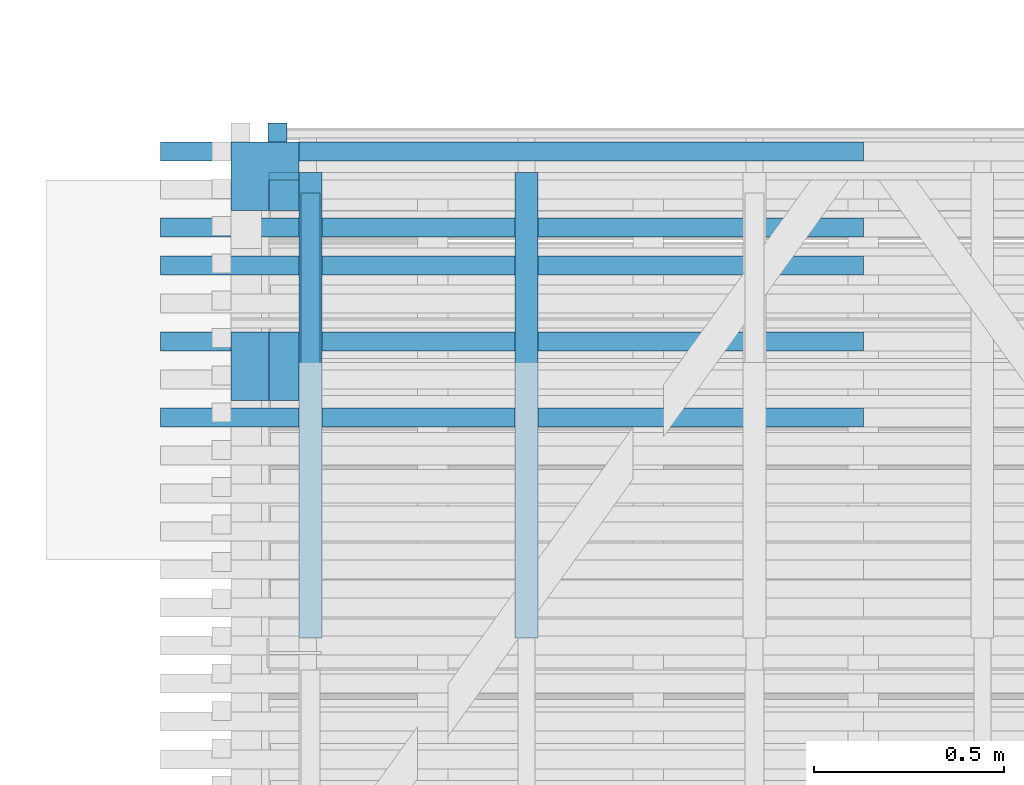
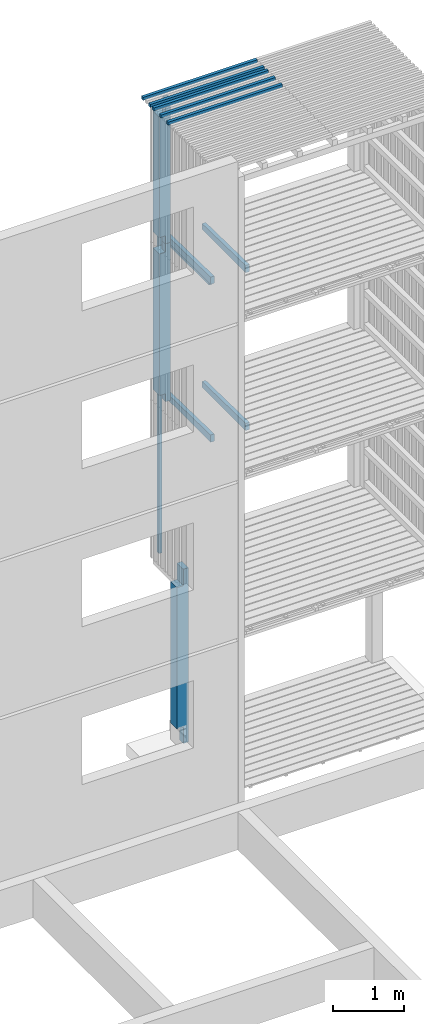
# One storey, part 118 of 182: 15 beams.
"""IFC2X3 building model written with IfcOpenShell, lengths in metres."""

from ifc_helpers import new_model, si_unit, frame, origin, place, context, project, spatial, faceted_brep, element, save


model = new_model("IFC2X3")

# Units and contexts
model_context = context("Model", 3, precision=1e-06, world=origin())
ifc_project = project(units=[si_unit("LENGTHUNIT", "METRE"), si_unit("PLANEANGLEUNIT", "RADIAN")], contexts=[model_context])

# Site, building, storey
site = spatial("IfcSite", under=ifc_project, CompositionType="ELEMENT")
building = spatial("IfcBuilding", under=site, CompositionType="ELEMENT")
storey = spatial("IfcBuildingStorey", under=building, Name="vs", CompositionType="ELEMENT", Elevation=-0.85)

# Beams
placement = place(None, origin())
beam_1_placement = place(placement, frame((53.80299999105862, 5.965077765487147, 8.00424999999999), z_axis=(0.0, 0.0, 1.0), x_axis=(0.0, 1.0, 0.0)))
element("IfcBeam", 1, at=beam_1_placement, inside=storey, Name="Solive", context=model_context, shape_type="Brep", body=[
    faceted_brep([(0.0, -0.030000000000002, -0.061849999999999), (1.225000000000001, -0.030000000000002, -0.061849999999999), (1.225000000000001, -0.030000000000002, 0.037349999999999), (0.0, -0.030000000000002, 0.061849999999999), (0.0, 0.030000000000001, 0.061850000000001), (0.0, 0.030000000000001, -0.061849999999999), (0.0, -0.030000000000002, -0.061849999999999), (0.0, -0.030000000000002, 0.061849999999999), (0.0, -0.030000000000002, -0.061849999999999), (0.0, 0.030000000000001, -0.061849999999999), (1.225000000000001, 0.030000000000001, -0.061849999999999), (1.225000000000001, -0.030000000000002, -0.061849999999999), (1.225000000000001, 0.030000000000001, -0.061849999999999), (0.0, 0.030000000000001, -0.061849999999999), (0.0, 0.030000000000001, 0.061850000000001), (1.225000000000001, 0.030000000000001, 0.037349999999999), (1.225000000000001, -0.030000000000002, 0.037349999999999), (1.225000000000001, -0.030000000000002, -0.061849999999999), (1.225000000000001, 0.030000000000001, -0.061849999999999), (1.225000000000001, 0.030000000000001, 0.037349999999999), (0.0, -0.030000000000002, 0.061849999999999), (1.225000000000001, -0.030000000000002, 0.037349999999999), (1.225000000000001, 0.030000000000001, 0.037349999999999), (0.0, 0.030000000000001, 0.061850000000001)], [[[0, 1, 2, 3]], [[4, 5, 6, 7]], [[8, 9, 10, 11]], [[12, 13, 14, 15]], [[16, 17, 18, 19]], [[20, 21, 22, 23]]]),
])
beam_2_placement = place(placement, frame((53.11499999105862, 6.680077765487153, -0.259999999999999), z_axis=(0.0, -1.0, 0.0), x_axis=(0.0, 0.0, 1.0)))
element("IfcBeam", 2, at=beam_2_placement, inside=storey, Name="Poteau", context=model_context, shape_type="Brep", body=[
    faceted_brep([(0.0, -0.010000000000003, 0.090000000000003), (0.0, -0.010000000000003, -0.009999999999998), (0.0, -0.090000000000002, -0.009999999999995), (0.0, -0.090000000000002, 0.090000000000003), (0.280000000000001, -0.010000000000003, -0.089999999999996), (0.28, -0.010000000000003, 0.090000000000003), (0.28, 0.089999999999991, 0.090000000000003), (0.280000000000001, 0.089999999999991, -0.089999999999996), (0.200000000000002, -0.090000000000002, -0.009999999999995), (0.200000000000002, -0.010000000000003, -0.009999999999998), (0.200000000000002, -0.010000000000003, -0.089999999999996), (0.200000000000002, -0.090000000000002, -0.089999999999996), (0.0, -0.010000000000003, -0.009999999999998), (0.0, -0.010000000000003, 0.090000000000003), (0.28, -0.010000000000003, 0.090000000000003), (0.280000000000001, -0.010000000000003, -0.089999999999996), (0.200000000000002, -0.010000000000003, -0.089999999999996), (0.200000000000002, -0.010000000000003, -0.009999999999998), (0.0, -0.010000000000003, -0.009999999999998), (0.200000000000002, -0.010000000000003, -0.009999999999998), (0.200000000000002, -0.090000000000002, -0.009999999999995), (0.0, -0.090000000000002, -0.009999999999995), (0.280000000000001, 0.089999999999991, -0.089999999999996), (0.28, 0.089999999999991, 0.090000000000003), (2.699999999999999, 0.089999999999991, 0.090000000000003), (2.699999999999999, 0.089999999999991, -0.089999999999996), (2.979999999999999, -0.010000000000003, 0.090000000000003), (2.699999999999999, -0.010000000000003, 0.090000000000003), (2.699999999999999, 0.089999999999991, 0.090000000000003), (0.28, 0.089999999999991, 0.090000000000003), (0.28, -0.010000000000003, 0.090000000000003), (0.0, -0.010000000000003, 0.090000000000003), (0.0, -0.090000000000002, 0.090000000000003), (2.979999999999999, -0.090000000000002, 0.090000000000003), (2.979999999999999, -0.090000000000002, 0.090000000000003), (0.0, -0.090000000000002, 0.090000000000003), (0.0, -0.090000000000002, -0.009999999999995), (0.200000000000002, -0.090000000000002, -0.009999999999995), (0.200000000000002, -0.090000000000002, -0.089999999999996), (2.979999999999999, -0.090000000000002, -0.089999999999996), (2.979999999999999, -0.010000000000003, -0.089999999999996), (2.979999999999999, -0.090000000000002, -0.089999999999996), (0.200000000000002, -0.090000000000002, -0.089999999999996), (0.200000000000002, -0.010000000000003, -0.089999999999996), (0.280000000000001, -0.010000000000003, -0.089999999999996), (0.280000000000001, 0.089999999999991, -0.089999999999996), (2.699999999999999, 0.089999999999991, -0.089999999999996), (2.699999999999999, -0.010000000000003, -0.089999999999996), (2.699999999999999, -0.010000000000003, -0.089999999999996), (2.699999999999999, 0.089999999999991, -0.089999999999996), (2.699999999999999, 0.089999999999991, 0.090000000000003), (2.699999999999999, -0.010000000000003, 0.090000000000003), (2.979999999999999, -0.010000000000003, -0.089999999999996), (2.699999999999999, -0.010000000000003, -0.089999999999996), (2.699999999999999, -0.010000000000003, 0.090000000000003), (2.979999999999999, -0.010000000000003, 0.090000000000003), (2.979999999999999, -0.010000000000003, -0.089999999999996), (2.979999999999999, -0.010000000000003, 0.090000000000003), (2.979999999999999, -0.090000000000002, 0.090000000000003), (2.979999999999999, -0.090000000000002, -0.089999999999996)], [[[0, 1, 2, 3]], [[4, 5, 6, 7]], [[8, 9, 10, 11]], [[12, 13, 14, 15, 16, 17]], [[18, 19, 20, 21]], [[22, 23, 24, 25]], [[26, 27, 28, 29, 30, 31, 32, 33]], [[34, 35, 36, 37, 38, 39]], [[40, 41, 42, 43, 44, 45, 46, 47]], [[48, 49, 50, 51]], [[52, 53, 54, 55]], [[56, 57, 58, 59]]]),
])
beam_3_placement = place(placement, frame((53.80299999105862, 5.965077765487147, 5.304249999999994), z_axis=(0.0, 0.0, 1.0), x_axis=(0.0, 1.0, 0.0)))
element("IfcBeam", 3, at=beam_3_placement, inside=storey, Name="Solive", context=model_context, shape_type="Brep", body=[
    faceted_brep([(0.0, -0.030000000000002, -0.061849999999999), (1.225000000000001, -0.030000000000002, -0.061849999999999), (1.225000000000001, -0.030000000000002, 0.03735), (0.0, -0.030000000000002, 0.06185), (0.0, 0.030000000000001, 0.061850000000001), (0.0, 0.030000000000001, -0.061849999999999), (0.0, -0.030000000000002, -0.061849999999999), (0.0, -0.030000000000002, 0.06185), (0.0, -0.030000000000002, -0.061849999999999), (0.0, 0.030000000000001, -0.061849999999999), (1.225000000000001, 0.030000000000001, -0.061849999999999), (1.225000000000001, -0.030000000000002, -0.061849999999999), (1.225000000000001, 0.030000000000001, -0.061849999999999), (0.0, 0.030000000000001, -0.061849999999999), (0.0, 0.030000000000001, 0.061850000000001), (1.225000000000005, 0.030000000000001, 0.03735), (1.225000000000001, -0.030000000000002, 0.03735), (1.225000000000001, -0.030000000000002, -0.061849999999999), (1.225000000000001, 0.030000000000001, -0.061849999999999), (1.225000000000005, 0.030000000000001, 0.03735), (0.0, -0.030000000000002, 0.06185), (1.225000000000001, -0.030000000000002, 0.03735), (1.225000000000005, 0.030000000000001, 0.03735), (0.0, 0.030000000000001, 0.061850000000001)], [[[0, 1, 2, 3]], [[4, 5, 6, 7]], [[8, 9, 10, 11]], [[12, 13, 14, 15]], [[16, 17, 18, 19]], [[20, 21, 22, 23]]]),
])
beam_4_placement = place(placement, frame((53.23499999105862, 5.965077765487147, 5.304249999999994), z_axis=(0.0, 0.0, 1.0), x_axis=(0.0, 1.0, 0.0)))
element("IfcBeam", 4, at=beam_4_placement, inside=storey, Name="Solive", context=model_context, shape_type="Brep", body=[
    faceted_brep([(0.0, -0.030000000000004, -0.061849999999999), (1.225000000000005, -0.030000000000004, -0.061849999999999), (1.225000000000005, -0.030000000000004, 0.03735), (0.0, -0.030000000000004, 0.06185), (0.0, 0.029999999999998, -0.061849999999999), (1.225000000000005, 0.029999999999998, -0.061849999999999), (1.225000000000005, -0.030000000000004, -0.061849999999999), (0.0, -0.030000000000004, -0.061849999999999), (0.0, 0.029999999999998, 0.061850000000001), (0.0, 0.029999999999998, -0.061849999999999), (0.0, -0.030000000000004, -0.061849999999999), (0.0, -0.030000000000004, 0.06185), (1.225000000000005, 0.029999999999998, -0.061849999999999), (0.0, 0.029999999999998, -0.061849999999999), (0.0, 0.029999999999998, 0.061850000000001), (1.225000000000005, 0.029999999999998, 0.03735), (1.225000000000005, -0.030000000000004, 0.03735), (1.225000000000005, -0.030000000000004, -0.061849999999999), (1.225000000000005, 0.029999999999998, -0.061849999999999), (1.225000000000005, 0.029999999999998, 0.03735), (0.0, -0.030000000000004, 0.06185), (1.225000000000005, -0.030000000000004, 0.03735), (1.225000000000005, 0.029999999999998, 0.03735), (0.0, 0.029999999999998, 0.061850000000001)], [[[0, 1, 2, 3]], [[4, 5, 6, 7]], [[8, 9, 10, 11]], [[12, 13, 14, 15]], [[16, 17, 18, 19]], [[20, 21, 22, 23]]]),
])
beam_5_placement = place(placement, frame((53.23499999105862, 5.965077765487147, 8.00424999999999), z_axis=(0.0, 0.0, 1.0), x_axis=(0.0, 1.0, 0.0)))
element("IfcBeam", 5, at=beam_5_placement, inside=storey, Name="Solive", context=model_context, shape_type="Brep", body=[
    faceted_brep([(0.0, -0.030000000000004, -0.061849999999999), (1.225000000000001, -0.030000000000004, -0.061849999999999), (1.225000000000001, -0.030000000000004, 0.037349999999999), (0.0, -0.030000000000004, 0.061849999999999), (0.0, 0.029999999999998, -0.061849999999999), (1.225000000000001, 0.029999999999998, -0.061849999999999), (1.225000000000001, -0.030000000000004, -0.061849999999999), (0.0, -0.030000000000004, -0.061849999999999), (0.0, 0.029999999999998, 0.061850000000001), (0.0, 0.029999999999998, -0.061849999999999), (0.0, -0.030000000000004, -0.061849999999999), (0.0, -0.030000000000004, 0.061849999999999), (1.225000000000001, 0.029999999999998, -0.061849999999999), (0.0, 0.029999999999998, -0.061849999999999), (0.0, 0.029999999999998, 0.061850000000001), (1.225000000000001, 0.029999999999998, 0.037349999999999), (1.225000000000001, -0.030000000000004, 0.037349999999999), (1.225000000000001, -0.030000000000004, -0.061849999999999), (1.225000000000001, 0.029999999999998, -0.061849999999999), (1.225000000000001, 0.029999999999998, 0.037349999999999), (0.0, -0.030000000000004, 0.061849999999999), (1.225000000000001, -0.030000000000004, 0.037349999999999), (1.225000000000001, 0.029999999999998, 0.037349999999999), (0.0, 0.029999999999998, 0.061850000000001)], [[[0, 1, 2, 3]], [[4, 5, 6, 7]], [[8, 9, 10, 11]], [[12, 13, 14, 15]], [[16, 17, 18, 19]], [[20, 21, 22, 23]]]),
])
beam_6_placement = place(placement, frame((53.148181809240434, 7.295077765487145, 2.575000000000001), z_axis=(0.0, -1.0, 0.0), x_axis=(0.0, 0.0, 1.0)))
element("IfcBeam", 6, at=beam_6_placement, inside=storey, Name="Bardage", context=model_context, shape_type="Brep", body=[
    faceted_brep([(0.0, -0.025000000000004, 0.024999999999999), (0.0, 0.024999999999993, 0.025000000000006), (0.0, 0.025000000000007, -0.024999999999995), (0.0, -0.025000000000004, -0.025000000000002), (2.699961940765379, 0.025000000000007, -0.024999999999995), (2.699961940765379, 0.024999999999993, 0.025000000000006), (2.699961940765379, -0.025000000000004, 0.024999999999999), (2.699961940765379, -0.025000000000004, -0.025000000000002), (0.0, -0.025000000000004, -0.025000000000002), (0.0, 0.025000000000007, -0.024999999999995), (2.699961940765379, 0.025000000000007, -0.024999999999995), (2.699961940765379, -0.025000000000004, -0.025000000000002), (2.699961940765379, 0.025000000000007, -0.024999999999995), (0.0, 0.025000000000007, -0.024999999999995), (0.0, 0.024999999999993, 0.025000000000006), (2.699961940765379, 0.024999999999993, 0.025000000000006), (2.699961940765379, 0.024999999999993, 0.025000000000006), (0.0, 0.024999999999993, 0.025000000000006), (0.0, -0.025000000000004, 0.024999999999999), (2.699961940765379, -0.025000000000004, 0.024999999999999), (2.699961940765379, -0.025000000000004, 0.024999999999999), (0.0, -0.025000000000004, 0.024999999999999), (0.0, -0.025000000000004, -0.025000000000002), (2.699961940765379, -0.025000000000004, -0.025000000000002)], [[[0, 1, 2, 3]], [[4, 5, 6, 7]], [[8, 9, 10, 11]], [[12, 13, 14, 15]], [[16, 17, 18, 19]], [[20, 21, 22, 23]]]),
])
beam_7_placement = place(placement, frame((54.689999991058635, 6.545077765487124, 10.47999999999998), z_axis=(0.0, 0.0, 1.0), x_axis=(-1.0, 0.0, 0.0)))
element("IfcBeam", 7, at=beam_7_placement, inside=storey, Name="Bardage", context=model_context, shape_type="Brep", body=[
    faceted_brep([(1.850000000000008, -0.024999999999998, -0.024999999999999), (1.850000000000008, -0.024999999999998, 0.025000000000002), (-1e-15, -0.025000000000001, 0.025000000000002), (-1e-15, -0.025000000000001, -0.024999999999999), (1.850000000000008, -0.024999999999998, 0.025000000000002), (1.850000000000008, -0.024999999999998, -0.024999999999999), (1.850000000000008, 0.024999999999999, -0.024999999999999), (1.850000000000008, 0.024999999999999, 0.025000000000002), (1.850000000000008, 0.024999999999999, -0.024999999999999), (1.850000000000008, -0.024999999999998, -0.024999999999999), (-1e-15, -0.025000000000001, -0.024999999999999), (-1e-15, 0.024999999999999, -0.024999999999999), (1.850000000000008, 0.024999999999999, 0.025000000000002), (1.850000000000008, 0.024999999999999, -0.024999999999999), (-1e-15, 0.024999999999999, -0.024999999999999), (-1e-15, 0.024999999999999, 0.025000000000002), (-1e-15, -0.025000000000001, 0.025000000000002), (1.850000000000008, -0.024999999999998, 0.025000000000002), (1.850000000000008, 0.024999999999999, 0.025000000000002), (-1e-15, 0.024999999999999, 0.025000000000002), (-1e-15, -0.025000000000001, -0.024999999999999), (-1e-15, -0.025000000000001, 0.025000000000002), (-1e-15, 0.024999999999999, 0.025000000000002), (-1e-15, 0.024999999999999, -0.024999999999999)], [[[0, 1, 2, 3]], [[4, 5, 6, 7]], [[8, 9, 10, 11]], [[12, 13, 14, 15]], [[16, 17, 18, 19]], [[20, 21, 22, 23]]]),
])
for number, where, z_axis, x_axis in (
    (8, (54.689999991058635, 7.24507776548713, 10.47999999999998), (0.0, 0.0, 1.0), (-1.0, 0.0, 0.0)),
    (9, (54.689999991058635, 6.74507776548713, 10.47999999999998), (0.0, 0.0, 1.0), (-1.0, 0.0, 0.0)),
):
    element("IfcBeam", number, at=place(placement, frame(where, z_axis=z_axis, x_axis=x_axis)), inside=storey, Name="Bardage", context=model_context, shape_type="Brep", body=[
        faceted_brep([(1.850000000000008, -0.024999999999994, -0.024999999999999), (1.850000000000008, -0.024999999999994, 0.025000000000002), (-1e-15, -0.024999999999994, 0.025000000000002), (-1e-15, -0.024999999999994, -0.024999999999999), (1.850000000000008, -0.024999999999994, 0.025000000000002), (1.850000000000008, -0.024999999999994, -0.024999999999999), (1.850000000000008, 0.025000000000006, -0.024999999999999), (1.850000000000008, 0.025000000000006, 0.025000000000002), (1.850000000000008, 0.025000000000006, -0.024999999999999), (1.850000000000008, -0.024999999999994, -0.024999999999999), (-1e-15, -0.024999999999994, -0.024999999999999), (-1e-15, 0.025000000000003, -0.024999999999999), (1.850000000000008, 0.025000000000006, 0.025000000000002), (1.850000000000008, 0.025000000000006, -0.024999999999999), (-1e-15, 0.025000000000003, -0.024999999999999), (-1e-15, 0.025000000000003, 0.025000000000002), (-1e-15, -0.024999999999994, 0.025000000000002), (1.850000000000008, -0.024999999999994, 0.025000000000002), (1.850000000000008, 0.025000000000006, 0.025000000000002), (-1e-15, 0.025000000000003, 0.025000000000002), (-1e-15, -0.024999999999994, -0.024999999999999), (-1e-15, -0.024999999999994, 0.025000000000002), (-1e-15, 0.025000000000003, 0.025000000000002), (-1e-15, 0.025000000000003, -0.024999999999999)], [[[0, 1, 2, 3]], [[4, 5, 6, 7]], [[8, 9, 10, 11]], [[12, 13, 14, 15]], [[16, 17, 18, 19]], [[20, 21, 22, 23]]]),
    ])
beam_8_placement = place(placement, frame((53.11499999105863, 7.180077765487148, 7.979999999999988), z_axis=(0.0, -1.0, 0.0), x_axis=(0.0, 0.0, 1.0)))
element("IfcBeam", 10, at=beam_8_placement, inside=storey, Name="Poteau", context=model_context, shape_type="Brep", body=[
    faceted_brep([(2.194999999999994, -0.009999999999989, 0.089999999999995), (2.194999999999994, -0.009999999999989, 0.010000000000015), (2.194999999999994, -0.089999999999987, 0.010000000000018), (2.194999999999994, -0.089999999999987, -0.090000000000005), (2.194999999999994, 0.090000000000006, -0.090000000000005), (2.194999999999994, 0.090000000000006, 0.089999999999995), (0.139999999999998, 0.090000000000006, 0.089999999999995), (2.194999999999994, 0.090000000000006, 0.089999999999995), (2.194999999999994, 0.090000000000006, -0.090000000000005), (0.139999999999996, 0.090000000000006, -0.090000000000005), (0.059999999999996, -0.009999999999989, -0.009999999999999), (0.059999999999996, -0.089999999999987, -0.009999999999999), (-1e-15, -0.089999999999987, -0.009999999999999), (-1e-15, -0.009999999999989, -0.009999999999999), (-1e-15, -0.009999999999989, 0.089999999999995), (-1e-15, -0.009999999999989, -0.009999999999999), (-1e-15, -0.089999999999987, -0.009999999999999), (-1e-15, -0.089999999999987, 0.089999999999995), (0.139999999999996, -0.009999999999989, -0.090000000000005), (0.139999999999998, -0.009999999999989, 0.089999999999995), (0.139999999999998, 0.090000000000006, 0.089999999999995), (0.139999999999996, 0.090000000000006, -0.090000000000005), (0.059999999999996, -0.089999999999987, -0.009999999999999), (0.059999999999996, -0.009999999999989, -0.009999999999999), (0.059999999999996, -0.009999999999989, -0.090000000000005), (0.059999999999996, -0.089999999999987, -0.090000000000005), (-1e-15, -0.009999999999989, -0.009999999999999), (-1e-15, -0.009999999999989, 0.089999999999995), (0.139999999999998, -0.009999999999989, 0.089999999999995), (0.139999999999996, -0.009999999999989, -0.090000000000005), (0.059999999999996, -0.009999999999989, -0.090000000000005), (0.059999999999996, -0.009999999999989, -0.009999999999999), (0.059999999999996, -0.089999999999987, -0.090000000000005), (0.059999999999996, -0.009999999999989, -0.090000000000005), (0.139999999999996, -0.009999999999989, -0.090000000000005), (0.139999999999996, 0.090000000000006, -0.090000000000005), (2.194999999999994, 0.090000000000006, -0.090000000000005), (2.194999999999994, -0.089999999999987, -0.090000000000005), (2.474999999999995, -0.089999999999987, 0.089999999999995), (-1e-15, -0.089999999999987, 0.089999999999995), (-1e-15, -0.089999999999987, -0.009999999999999), (0.059999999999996, -0.089999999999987, -0.009999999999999), (0.059999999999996, -0.089999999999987, -0.090000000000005), (2.194999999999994, -0.089999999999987, -0.090000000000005), (2.194999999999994, -0.089999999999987, 0.010000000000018), (2.474999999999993, -0.089999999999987, 0.010000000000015), (2.474999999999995, -0.089999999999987, 0.089999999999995), (2.474999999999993, -0.089999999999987, 0.010000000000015), (2.474999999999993, -0.009999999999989, 0.010000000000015), (2.474999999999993, -0.009999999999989, 0.089999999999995), (2.194999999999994, -0.089999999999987, 0.010000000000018), (2.194999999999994, -0.009999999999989, 0.010000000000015), (2.474999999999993, -0.009999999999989, 0.010000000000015), (2.474999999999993, -0.089999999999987, 0.010000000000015), (2.474999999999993, -0.009999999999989, 0.089999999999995), (2.474999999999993, -0.009999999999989, 0.010000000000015), (2.194999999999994, -0.009999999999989, 0.010000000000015), (2.194999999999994, -0.009999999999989, 0.089999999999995), (2.474999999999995, -0.089999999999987, 0.089999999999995), (2.474999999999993, -0.009999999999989, 0.089999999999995), (2.194999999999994, -0.009999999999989, 0.089999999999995), (2.194999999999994, 0.090000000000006, 0.089999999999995), (0.139999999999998, 0.090000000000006, 0.089999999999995), (0.139999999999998, -0.009999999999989, 0.089999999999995), (-1e-15, -0.009999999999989, 0.089999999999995), (-1e-15, -0.089999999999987, 0.089999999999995)], [[[0, 1, 2, 3, 4, 5]], [[6, 7, 8, 9]], [[10, 11, 12, 13]], [[14, 15, 16, 17]], [[18, 19, 20, 21]], [[22, 23, 24, 25]], [[26, 27, 28, 29, 30, 31]], [[32, 33, 34, 35, 36, 37]], [[38, 39, 40, 41, 42, 43, 44, 45]], [[46, 47, 48, 49]], [[50, 51, 52, 53]], [[54, 55, 56, 57]], [[58, 59, 60, 61, 62, 63, 64, 65]]]),
])
beam_9_placement = place(placement, frame((54.689999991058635, 6.945077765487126, 10.47999999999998), z_axis=(0.0, 0.0, 1.0), x_axis=(-1.0, -2e-15, 0.0)))
element("IfcBeam", 11, at=beam_9_placement, inside=storey, Name="Bardage", context=model_context, shape_type="Brep", body=[
    faceted_brep([(1.850000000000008, -0.025000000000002, -0.024999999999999), (1.850000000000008, -0.025000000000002, 0.025000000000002), (-1e-15, -0.025000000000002, 0.025000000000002), (-1e-15, -0.025000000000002, -0.024999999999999), (1.850000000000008, -0.025000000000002, 0.025000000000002), (1.850000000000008, -0.025000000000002, -0.024999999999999), (1.850000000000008, 0.024999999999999, -0.024999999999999), (1.850000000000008, 0.024999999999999, 0.025000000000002), (1.850000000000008, 0.024999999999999, -0.024999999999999), (1.850000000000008, -0.025000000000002, -0.024999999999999), (-1e-15, -0.025000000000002, -0.024999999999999), (0.0, 0.025000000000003, -0.024999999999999), (1.850000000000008, 0.024999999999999, 0.025000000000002), (1.850000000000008, 0.024999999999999, -0.024999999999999), (0.0, 0.025000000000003, -0.024999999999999), (0.0, 0.025000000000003, 0.025000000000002), (-1e-15, -0.025000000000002, 0.025000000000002), (1.850000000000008, -0.025000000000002, 0.025000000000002), (1.850000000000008, 0.024999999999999, 0.025000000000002), (0.0, 0.025000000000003, 0.025000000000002), (-1e-15, -0.025000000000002, -0.024999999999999), (-1e-15, -0.025000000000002, 0.025000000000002), (0.0, 0.025000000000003, 0.025000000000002), (0.0, 0.025000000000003, -0.024999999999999)], [[[0, 1, 2, 3]], [[4, 5, 6, 7]], [[8, 9, 10, 11]], [[12, 13, 14, 15]], [[16, 17, 18, 19]], [[20, 21, 22, 23]]]),
])
beam_10_placement = place(placement, frame((54.689999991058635, 7.045077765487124, 10.47999999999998), z_axis=(0.0, 0.0, 1.0), x_axis=(-1.0, 0.0, 0.0)))
element("IfcBeam", 12, at=beam_10_placement, inside=storey, Name="Bardage", context=model_context, shape_type="Brep", body=[
    faceted_brep([(1.850000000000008, -0.024999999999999, -0.024999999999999), (1.850000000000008, -0.024999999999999, 0.025000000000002), (-1e-15, -0.025000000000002, 0.025000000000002), (-1e-15, -0.025000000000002, -0.024999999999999), (1.850000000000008, -0.024999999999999, 0.025000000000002), (1.850000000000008, -0.024999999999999, -0.024999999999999), (1.850000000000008, 0.024999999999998, -0.024999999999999), (1.850000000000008, 0.024999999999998, 0.025000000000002), (1.850000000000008, 0.024999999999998, -0.024999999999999), (1.850000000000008, -0.024999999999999, -0.024999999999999), (-1e-15, -0.025000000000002, -0.024999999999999), (-1e-15, 0.024999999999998, -0.024999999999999), (1.850000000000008, 0.024999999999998, 0.025000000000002), (1.850000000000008, 0.024999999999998, -0.024999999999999), (-1e-15, 0.024999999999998, -0.024999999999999), (-1e-15, 0.024999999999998, 0.025000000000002), (-1e-15, -0.025000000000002, 0.025000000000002), (1.850000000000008, -0.024999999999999, 0.025000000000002), (1.850000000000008, 0.024999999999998, 0.025000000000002), (-1e-15, 0.024999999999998, 0.025000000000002), (-1e-15, -0.025000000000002, -0.024999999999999), (-1e-15, -0.025000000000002, 0.025000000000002), (-1e-15, 0.024999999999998, 0.025000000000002), (-1e-15, 0.024999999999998, -0.024999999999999)], [[[0, 1, 2, 3]], [[4, 5, 6, 7]], [[8, 9, 10, 11]], [[12, 13, 14, 15]], [[16, 17, 18, 19]], [[20, 21, 22, 23]]]),
])
beam_11_placement = place(placement, frame((53.11499999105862, 7.180077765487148, 5.279999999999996), z_axis=(0.0, -1.0, 0.0), x_axis=(0.0, 0.0, 1.0)))
element("IfcBeam", 13, at=beam_11_placement, inside=storey, Name="Poteau", context=model_context, shape_type="Brep", body=[
    faceted_brep([(0.059999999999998, -0.010000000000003, -0.010000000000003), (0.059999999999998, -0.090000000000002, -0.009999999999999), (-1e-15, -0.090000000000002, -0.010000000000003), (-1e-15, -0.010000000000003, -0.010000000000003), (-1e-15, -0.010000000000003, 0.089999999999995), (-1e-15, -0.010000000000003, -0.010000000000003), (-1e-15, -0.090000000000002, -0.010000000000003), (-1e-15, -0.090000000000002, 0.089999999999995), (0.139999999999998, -0.010000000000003, -0.090000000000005), (0.139999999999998, -0.010000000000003, 0.089999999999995), (0.139999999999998, 0.089999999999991, 0.089999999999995), (0.139999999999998, 0.089999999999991, -0.090000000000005), (0.059999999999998, -0.090000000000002, -0.009999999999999), (0.059999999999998, -0.010000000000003, -0.010000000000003), (0.059999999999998, -0.010000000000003, -0.090000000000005), (0.059999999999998, -0.090000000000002, -0.090000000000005), (-1e-15, -0.010000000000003, -0.010000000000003), (-1e-15, -0.010000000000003, 0.089999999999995), (0.139999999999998, -0.010000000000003, 0.089999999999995), (0.139999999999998, -0.010000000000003, -0.090000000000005), (0.059999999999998, -0.010000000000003, -0.090000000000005), (0.059999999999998, -0.010000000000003, -0.010000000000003), (0.059999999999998, -0.090000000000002, -0.090000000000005), (0.059999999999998, -0.010000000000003, -0.090000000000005), (0.139999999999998, -0.010000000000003, -0.090000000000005), (0.139999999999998, 0.089999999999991, -0.090000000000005), (2.559999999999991, 0.089999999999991, -0.090000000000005), (2.559999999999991, -0.090000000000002, -0.090000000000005), (2.699999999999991, -0.090000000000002, -0.009999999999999), (2.699999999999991, -0.090000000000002, 0.089999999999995), (-1e-15, -0.090000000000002, 0.089999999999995), (-1e-15, -0.090000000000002, -0.010000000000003), (0.059999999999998, -0.090000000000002, -0.009999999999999), (0.059999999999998, -0.090000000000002, -0.090000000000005), (2.559999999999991, -0.090000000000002, -0.090000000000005), (2.559999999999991, -0.090000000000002, -0.009999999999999), (2.559999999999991, 0.089999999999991, -0.090000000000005), (0.139999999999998, 0.089999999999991, -0.090000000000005), (0.139999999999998, 0.089999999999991, 0.089999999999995), (2.559999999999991, 0.089999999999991, 0.089999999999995), (2.699999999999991, -0.010000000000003, 0.089999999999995), (2.559999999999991, -0.010000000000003, 0.089999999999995), (2.559999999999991, 0.089999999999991, 0.089999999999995), (0.139999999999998, 0.089999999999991, 0.089999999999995), (0.139999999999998, -0.010000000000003, 0.089999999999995), (-1e-15, -0.010000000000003, 0.089999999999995), (-1e-15, -0.090000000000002, 0.089999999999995), (2.699999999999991, -0.090000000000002, 0.089999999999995), (2.699999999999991, -0.090000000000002, -0.009999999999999), (2.559999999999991, -0.090000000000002, -0.009999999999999), (2.559999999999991, -0.010000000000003, -0.010000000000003), (2.699999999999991, -0.010000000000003, -0.009999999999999), (2.699999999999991, -0.010000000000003, 0.089999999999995), (2.699999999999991, -0.090000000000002, 0.089999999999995), (2.699999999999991, -0.090000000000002, -0.009999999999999), (2.699999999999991, -0.010000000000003, -0.009999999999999), (2.559999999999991, -0.010000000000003, 0.089999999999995), (2.699999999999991, -0.010000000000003, 0.089999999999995), (2.699999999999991, -0.010000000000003, -0.009999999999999), (2.559999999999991, -0.010000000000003, -0.010000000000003), (2.559999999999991, 0.089999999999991, -0.090000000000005), (2.559999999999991, 0.089999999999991, 0.089999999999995), (2.559999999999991, -0.010000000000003, 0.089999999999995), (2.559999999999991, -0.010000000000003, -0.010000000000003), (2.559999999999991, -0.090000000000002, -0.009999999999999), (2.559999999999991, -0.090000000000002, -0.090000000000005)], [[[0, 1, 2, 3]], [[4, 5, 6, 7]], [[8, 9, 10, 11]], [[12, 13, 14, 15]], [[16, 17, 18, 19, 20, 21]], [[22, 23, 24, 25, 26, 27]], [[28, 29, 30, 31, 32, 33, 34, 35]], [[36, 37, 38, 39]], [[40, 41, 42, 43, 44, 45, 46, 47]], [[48, 49, 50, 51]], [[52, 53, 54, 55]], [[56, 57, 58, 59]], [[60, 61, 62, 63, 64, 65]]]),
])
beam_12_placement = place(placement, frame((53.23499999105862, 7.135077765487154, 7.91739999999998), z_axis=(0.0, 0.0, 1.0), x_axis=(0.0, -1.0, 0.0)))
element("IfcBeam", 14, at=beam_12_placement, inside=storey, Name="Calage", context=model_context, shape_type="Brep", body=[
    faceted_brep([(2e-15, 0.025000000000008, -0.025), (2e-15, -0.024999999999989, -0.025), (2e-15, -0.024999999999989, 0.024999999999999), (2e-15, 0.025000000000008, 0.024999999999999), (1.115000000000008, -0.024999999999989, 0.024999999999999), (1.115000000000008, -0.024999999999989, -0.025), (1.115000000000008, 0.025000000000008, -0.025), (1.115000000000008, 0.025000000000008, 0.024999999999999), (2e-15, -0.024999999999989, 0.024999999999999), (2e-15, -0.024999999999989, -0.025), (1.115000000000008, -0.024999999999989, -0.025), (1.115000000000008, -0.024999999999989, 0.024999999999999), (1.115000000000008, -0.024999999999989, -0.025), (2e-15, -0.024999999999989, -0.025), (2e-15, 0.025000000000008, -0.025), (1.115000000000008, 0.025000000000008, -0.025), (1.115000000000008, 0.025000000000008, -0.025), (2e-15, 0.025000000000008, -0.025), (2e-15, 0.025000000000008, 0.024999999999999), (1.115000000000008, 0.025000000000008, 0.024999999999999), (1.115000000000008, 0.025000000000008, 0.024999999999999), (2e-15, 0.025000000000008, 0.024999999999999), (2e-15, -0.024999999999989, 0.024999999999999), (1.115000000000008, -0.024999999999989, 0.024999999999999)], [[[0, 1, 2, 3]], [[4, 5, 6, 7]], [[8, 9, 10, 11]], [[12, 13, 14, 15]], [[16, 17, 18, 19]], [[20, 21, 22, 23]]]),
])
beam_13_placement = place(placement, frame((53.148181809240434, 7.295077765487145, 5.274999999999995), z_axis=(0.0, -1.0, 0.0), x_axis=(0.0, 0.0, 1.0)))
element("IfcBeam", 15, at=beam_13_placement, inside=storey, Name="Bardage", context=model_context, shape_type="Brep", body=[
    faceted_brep([(1e-15, -0.025000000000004, 0.024999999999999), (1e-15, 0.024999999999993, 0.025000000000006), (1e-15, 0.025000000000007, -0.024999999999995), (1e-15, -0.025000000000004, -0.025000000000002), (2.699999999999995, -0.025000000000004, -0.025000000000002), (2.699999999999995, 0.025000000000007, -0.024999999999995), (2.699999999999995, 0.024999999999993, 0.025000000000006), (2.699999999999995, -0.025000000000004, 0.024999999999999), (1e-15, -0.025000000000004, 0.024999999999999), (1e-15, -0.025000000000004, -0.025000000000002), (2.699999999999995, -0.025000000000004, -0.025000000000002), (2.699999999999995, -0.025000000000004, 0.024999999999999), (2.699999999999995, -0.025000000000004, -0.025000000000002), (1e-15, -0.025000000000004, -0.025000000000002), (1e-15, 0.025000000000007, -0.024999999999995), (2.699999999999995, 0.025000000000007, -0.024999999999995), (2.699999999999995, 0.025000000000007, -0.024999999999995), (1e-15, 0.025000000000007, -0.024999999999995), (1e-15, 0.024999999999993, 0.025000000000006), (2.699999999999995, 0.024999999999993, 0.025000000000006), (2.699999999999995, 0.024999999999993, 0.025000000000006), (1e-15, 0.024999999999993, 0.025000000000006), (1e-15, -0.025000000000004, 0.024999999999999), (2.699999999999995, -0.025000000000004, 0.024999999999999)], [[[0, 1, 2, 3]], [[4, 5, 6, 7]], [[8, 9, 10, 11]], [[12, 13, 14, 15]], [[16, 17, 18, 19]], [[20, 21, 22, 23]]]),
])

save(model, "model.ifc")
